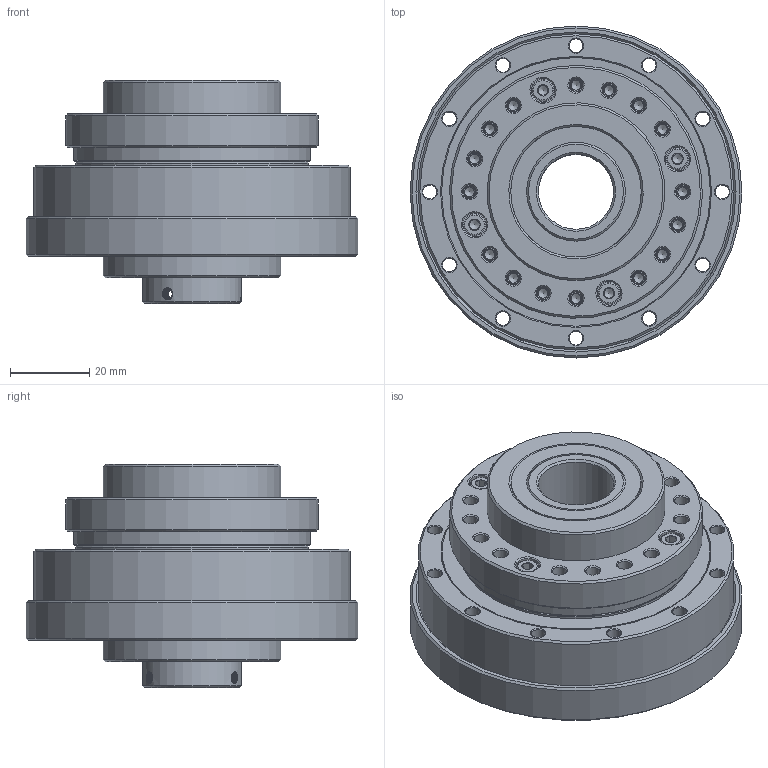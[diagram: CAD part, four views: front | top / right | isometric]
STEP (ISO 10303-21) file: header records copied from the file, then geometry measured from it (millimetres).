
FILE_DESCRIPTION(/* description */ (''),/* implementation_level */ '2;1');
FILE_NAME(/* name */ 'LHT-17-XX-U-III.stp',/* time_stamp */ '2023-07-29T10:55:50+08:00',/* author */ (''),/* organization */ (''),/* preprocessor_version */ 'ST-DEVELOPER v16.7',/* originating_system */ 'SIEMENS PLM Software NX 12.0',/* authorisation */ '');
FILE_SCHEMA (('AUTOMOTIVE_DESIGN { 1 0 10303 214 3 1 1 1 }'));
Length unit declared in the file: millimetre
Products named in the file (18): EB304006-17KC-01; EB304006-17KC-46; TC-59x68x5; SC-25x33x4; GB-T70.1-2000,M3x12; 内六角平圆头螺钉M3x10; GB-T276_60000_2RZ-1994,61805_2RZ; LHT-17-00-III下壳体; LHT-17-00-III上壳体; LHT-17-XX-III; 内六角平圆头螺钉M3x8(4.5mm头径); O-47x0.5; O-65x1.5; 柔轮LHT-17; 刚轮LHT-17-III; EB304006-17KC; 交叉轴承LHT-17; LHT-17-XX-U-III
Assembly tree (28 placements, depth 3):
  LHT-17-XX-U-III
    交叉轴承LHT-17
      TC-59x68x5
    刚轮LHT-17-III
    柔轮LHT-17
    EB304006-17KC
      EB304006-17KC-46
      EB304006-17KC-01
    O-65x1.5
    O-47x0.5
    内六角平圆头螺钉M3x8(4.5mm头径)  x4
    LHT-17-XX-III
    LHT-17-00-III上壳体
    LHT-17-00-III下壳体
    GB-T276_60000_2RZ-1994,61805_2RZ  x2
    内六角平圆头螺钉M3x10  x4
    GB-T70.1-2000,M3x12  x4
    SC-25x33x4  x2
Bounding box: 84 x 84 x 56.5 mm (x, y, z)
Volume: 131533.9 mm3; surface area: 107917.9 mm2
Topology: 92 solids, 92 shells, 1187 faces, 2724 edges, 1668 vertices
Faces by surface type: cone 396, plane 323, cylinder 294, torus 101, sphere 57, bspline 14, revolution 2
Full cylindrical faces by diameter (mm): 2.5 x28, 2.874 x12, 3.5 x88, 4.5 x4, 4.8 x4, 5.5 x8, 6 x8, 19 x1, 19.3 x1, 24.5 x2, 25 x6, 27.9 x1, 28 x1, 28.8 x1, 29 x4, 30 x3, 31.88 x2, 33 x9, 33.7 x8, 34 x1, 37 x4, 37.3 x1, 38.16 x2, 40 x2, 40.58 x1, 41.545 x1, 41.703 x1, 44.1 x1, 45 x2, 45.5 x1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
Entity records: 34510 total; most frequent: CARTESIAN_POINT 15438, DIRECTION 3922, ORIENTED_EDGE 2630, AXIS2_PLACEMENT_3D 1887, EDGE_LOOP 1660, FACE_BOUND 1512, EDGE_CURVE 1315, VERTEX_POINT 1174
